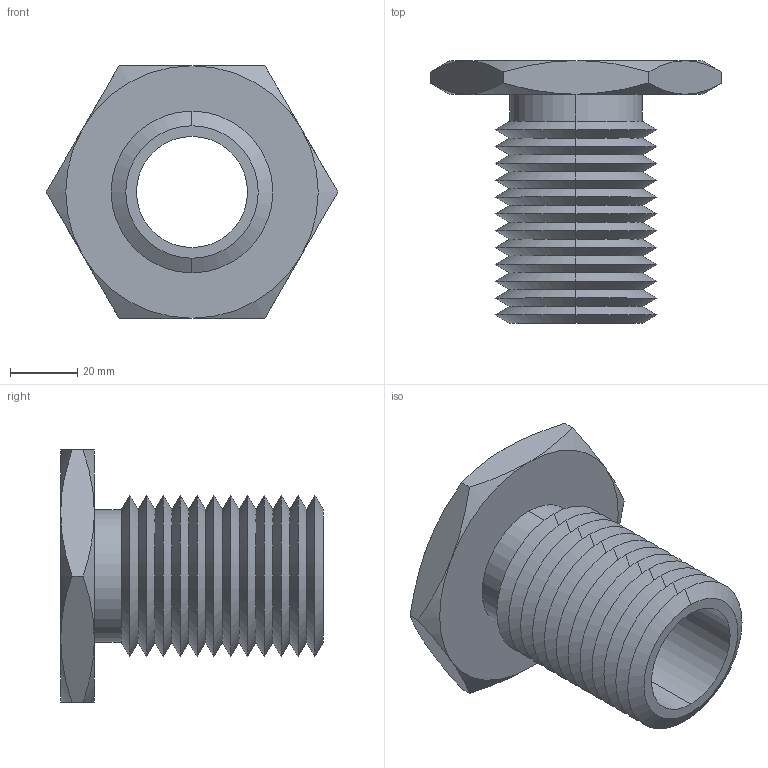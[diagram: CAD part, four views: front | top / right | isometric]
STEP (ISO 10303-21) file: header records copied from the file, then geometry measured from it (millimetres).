
FILE_DESCRIPTION (( 'STEP AP203' ), '1' );
FILE_NAME ('63302.W0048_M33x3,5.step', '2013-12-08T11:18:25', ( 'User' ), ( '' ), 'SwSTEP 2.0', 'SolidWorks 2009', '' );
FILE_SCHEMA (( 'CONFIG_CONTROL_DESIGN' ));
Length unit declared in the file: millimetre
Products named in the file (1): 63302.W0048_M33x3,5
Bounding box: 86.6 x 78 x 75 mm (x, y, z)
Volume: 80290.8 mm3; surface area: 35515.3 mm2
Topology: 1 solids, 1 shells, 75 faces, 154 edges, 82 vertices
Faces by surface type: cone 62, plane 9, cylinder 4
Entity records: 2139 total; most frequent: CARTESIAN_POINT 496, DIRECTION 352, ORIENTED_EDGE 308, EDGE_CURVE 154, AXIS2_PLACEMENT_3D 146, VERTEX_POINT 82, EDGE_LOOP 78, ADVANCED_FACE 75
